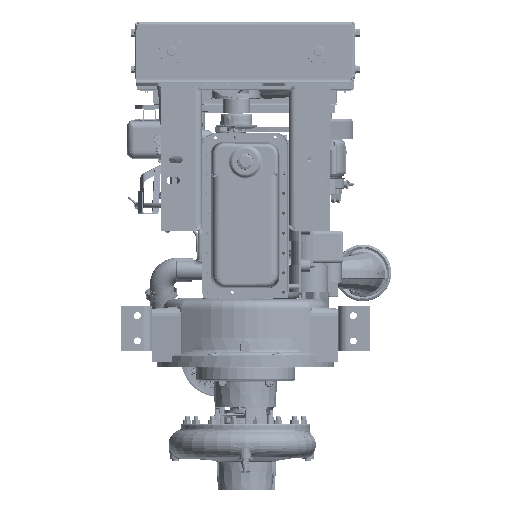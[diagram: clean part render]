
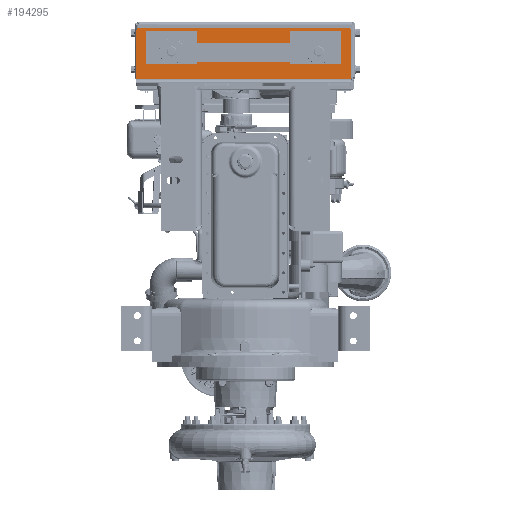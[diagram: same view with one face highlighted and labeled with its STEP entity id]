
A CAD part, front view. The second image highlights one B-rep face of the part: STEP entity #194295.
In plain terms, the highlighted planar face has unit normal (0, -1, 0).
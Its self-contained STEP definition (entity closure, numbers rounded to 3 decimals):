
#6189 = CARTESIAN_POINT ( 'NONE',  ( -8.63, -4.72, 17.34 ) ) ;
#9814 = DIRECTION ( 'NONE',  ( 0., -1., 0. ) ) ;
#17769 = CARTESIAN_POINT ( 'NONE',  ( 8.12, -4.72, 21.439 ) ) ;
#18398 = CARTESIAN_POINT ( 'NONE',  ( -6.08, -4.72, 19.26 ) ) ;
#20977 = DIRECTION ( 'NONE',  ( 0., 0., 1. ) ) ;
#22442 = VERTEX_POINT ( 'NONE', #238909 ) ;
#25820 = VERTEX_POINT ( 'NONE', #82523 ) ;
#32425 = LINE ( 'NONE', #191456, #638004 ) ;
#39853 = DIRECTION ( 'NONE',  ( 0., -1., 0. ) ) ;
#42380 = CARTESIAN_POINT ( 'NONE',  ( -8.63, -4.72, 21.189 ) ) ;
#44692 = AXIS2_PLACEMENT_3D ( 'NONE', #478148, #220895, #20977 ) ;
#45512 = DIRECTION ( 'NONE',  ( 0., 1., 0. ) ) ;
#53581 = CIRCLE ( 'NONE', #64242, 0.25 ) ;
#57033 = LINE ( 'NONE', #6189, #562418 ) ;
#60625 = CARTESIAN_POINT ( 'NONE',  ( 8.37, -4.72, 21.439 ) ) ;
#63354 = VERTEX_POINT ( 'NONE', #642230 ) ;
#64242 = AXIS2_PLACEMENT_3D ( 'NONE', #608778, #39853, #310469 ) ;
#68550 = AXIS2_PLACEMENT_3D ( 'NONE', #595265, #45512, #639409 ) ;
#72700 = CARTESIAN_POINT ( 'NONE',  ( 5.57, -4.72, 19.26 ) ) ;
#80705 = LINE ( 'NONE', #239727, #107391 ) ;
#82523 = CARTESIAN_POINT ( 'NONE',  ( -6.08, -4.72, 19.26 ) ) ;
#91457 = CARTESIAN_POINT ( 'NONE',  ( 8.37, -4.72, 17.34 ) ) ;
#96978 = LINE ( 'NONE', #303470, #213337 ) ;
#104439 = CARTESIAN_POINT ( 'NONE',  ( -5.83, -4.72, 19.885 ) ) ;
#107391 = VECTOR ( 'NONE', #439555, 39.37 ) ;
#119389 = CARTESIAN_POINT ( 'NONE',  ( -5.83, -4.72, 20.51 ) ) ;
#121699 = VECTOR ( 'NONE', #439196, 39.37 ) ;
#134883 = ORIENTED_EDGE ( 'NONE', *, *, #333572, .F. ) ;
#148898 = DIRECTION ( 'NONE',  ( -1., 0., 0. ) ) ;
#149348 = EDGE_CURVE ( 'NONE', #624567, #352486, #160184, .T. ) ;
#154183 = DIRECTION ( 'NONE',  ( 0., 0., 1. ) ) ;
#159329 = CARTESIAN_POINT ( 'NONE',  ( -5.83, -4.72, 20.51 ) ) ;
#160184 = LINE ( 'NONE', #119389, #464179 ) ;
#164060 = ORIENTED_EDGE ( 'NONE', *, *, #454474, .F. ) ;
#191102 = CARTESIAN_POINT ( 'NONE',  ( -6.08, -4.72, 19.885 ) ) ;
#191456 = CARTESIAN_POINT ( 'NONE',  ( 5.82, -4.72, 20.51 ) ) ;
#194295 = ADVANCED_FACE ( 'NONE', ( #524494, #632871, #473602 ), #476949, .T. ) ;
#200549 = CARTESIAN_POINT ( 'NONE',  ( 5.57, -4.72, 20.51 ) ) ;
#201105 = ORIENTED_EDGE ( 'NONE', *, *, #484353, .F. ) ;
#207090 = VERTEX_POINT ( 'NONE', #200549 ) ;
#213337 = VECTOR ( 'NONE', #611743, 39.37 ) ;
#213488 = VERTEX_POINT ( 'NONE', #17769 ) ;
#214280 = EDGE_CURVE ( 'NONE', #391473, #63354, #598447, .T. ) ;
#216184 = EDGE_CURVE ( 'NONE', #396026, #207090, #316901, .T. ) ;
#220895 = DIRECTION ( 'NONE',  ( 0., 1., 0. ) ) ;
#224961 = DIRECTION ( 'NONE',  ( 1., 0., 0. ) ) ;
#238909 = CARTESIAN_POINT ( 'NONE',  ( 5.82, -4.72, 20.51 ) ) ;
#239727 = CARTESIAN_POINT ( 'NONE',  ( -8.38, -4.72, 21.439 ) ) ;
#271763 = EDGE_LOOP ( 'NONE', ( #134883, #512000, #201105, #164060, #620617, #572586 ) ) ;
#276784 = CARTESIAN_POINT ( 'NONE',  ( 8.37, -4.72, 17.34 ) ) ;
#299099 = CIRCLE ( 'NONE', #461498, 0.625 ) ;
#300227 = VERTEX_POINT ( 'NONE', #42380 ) ;
#303470 = CARTESIAN_POINT ( 'NONE',  ( 5.57, -4.72, 19.26 ) ) ;
#309068 = EDGE_CURVE ( 'NONE', #25820, #502318, #482230, .T. ) ;
#310003 = CARTESIAN_POINT ( 'NONE',  ( -5.83, -4.72, 19.26 ) ) ;
#310469 = DIRECTION ( 'NONE',  ( 1., 0., 0. ) ) ;
#316901 = CIRCLE ( 'NONE', #68550, 0.625 ) ;
#321315 = ORIENTED_EDGE ( 'NONE', *, *, #309068, .F. ) ;
#321825 = AXIS2_PLACEMENT_3D ( 'NONE', #191102, #397525, #617660 ) ;
#324272 = DIRECTION ( 'NONE',  ( 0., 0., 1. ) ) ;
#325293 = EDGE_CURVE ( 'NONE', #396026, #641112, #96978, .T. ) ;
#333572 = EDGE_CURVE ( 'NONE', #441322, #213488, #80705, .T. ) ;
#336164 = EDGE_LOOP ( 'NONE', ( #628526, #572864, #372691, #579007 ) ) ;
#336490 = ORIENTED_EDGE ( 'NONE', *, *, #393907, .T. ) ;
#352486 = VERTEX_POINT ( 'NONE', #606104 ) ;
#352982 = ORIENTED_EDGE ( 'NONE', *, *, #396664, .T. ) ;
#358238 = CIRCLE ( 'NONE', #44692, 0.625 ) ;
#372691 = ORIENTED_EDGE ( 'NONE', *, *, #540074, .T. ) ;
#389982 = CARTESIAN_POINT ( 'NONE',  ( -8.63, -4.72, 17.34 ) ) ;
#391473 = VERTEX_POINT ( 'NONE', #653909 ) ;
#393907 = EDGE_CURVE ( 'NONE', #624567, #502318, #299099, .T. ) ;
#396026 = VERTEX_POINT ( 'NONE', #72700 ) ;
#396664 = EDGE_CURVE ( 'NONE', #25820, #352486, #668068, .T. ) ;
#397525 = DIRECTION ( 'NONE',  ( 0., 1., 0. ) ) ;
#399453 = LINE ( 'NONE', #91457, #648218 ) ;
#422489 = DIRECTION ( 'NONE',  ( 0., 1., 0. ) ) ;
#429682 = CIRCLE ( 'NONE', #613574, 0.25 ) ;
#433228 = EDGE_LOOP ( 'NONE', ( #352982, #587110, #336490, #321315 ) ) ;
#439196 = DIRECTION ( 'NONE',  ( 0., 0., 1. ) ) ;
#439555 = DIRECTION ( 'NONE',  ( 1., 0., 0. ) ) ;
#441322 = VERTEX_POINT ( 'NONE', #471368 ) ;
#445435 = DIRECTION ( 'NONE',  ( -1., 0., 0. ) ) ;
#454474 = EDGE_CURVE ( 'NONE', #391473, #547745, #399453, .T. ) ;
#454886 = EDGE_CURVE ( 'NONE', #63354, #213488, #53581, .T. ) ;
#460243 = EDGE_CURVE ( 'NONE', #22442, #207090, #32425, .T. ) ;
#461498 = AXIS2_PLACEMENT_3D ( 'NONE', #104439, #422489, #622581 ) ;
#464179 = VECTOR ( 'NONE', #468276, 39.37 ) ;
#468276 = DIRECTION ( 'NONE',  ( -1., 0., 0. ) ) ;
#469024 = CARTESIAN_POINT ( 'NONE',  ( 5.82, -4.72, 19.26 ) ) ;
#471368 = CARTESIAN_POINT ( 'NONE',  ( -8.38, -4.72, 21.439 ) ) ;
#473602 = FACE_OUTER_BOUND ( 'NONE', #271763, .T. ) ;
#476949 = PLANE ( 'NONE',  #545527 ) ;
#478148 = CARTESIAN_POINT ( 'NONE',  ( 5.82, -4.72, 19.885 ) ) ;
#482230 = LINE ( 'NONE', #18398, #608479 ) ;
#484353 = EDGE_CURVE ( 'NONE', #547745, #300227, #57033, .T. ) ;
#502318 = VERTEX_POINT ( 'NONE', #310003 ) ;
#512000 = ORIENTED_EDGE ( 'NONE', *, *, #514096, .T. ) ;
#514096 = EDGE_CURVE ( 'NONE', #441322, #300227, #429682, .T. ) ;
#524494 = FACE_BOUND ( 'NONE', #336164, .T. ) ;
#526451 = DIRECTION ( 'NONE',  ( 0., -1., 0. ) ) ;
#540074 = EDGE_CURVE ( 'NONE', #22442, #641112, #358238, .T. ) ;
#545527 = AXIS2_PLACEMENT_3D ( 'NONE', #60625, #9814, #626193 ) ;
#547745 = VERTEX_POINT ( 'NONE', #389982 ) ;
#562418 = VECTOR ( 'NONE', #324272, 39.37 ) ;
#572586 = ORIENTED_EDGE ( 'NONE', *, *, #454886, .T. ) ;
#572864 = ORIENTED_EDGE ( 'NONE', *, *, #460243, .F. ) ;
#579007 = ORIENTED_EDGE ( 'NONE', *, *, #325293, .F. ) ;
#580647 = CARTESIAN_POINT ( 'NONE',  ( -8.38, -4.72, 21.189 ) ) ;
#587110 = ORIENTED_EDGE ( 'NONE', *, *, #149348, .F. ) ;
#595265 = CARTESIAN_POINT ( 'NONE',  ( 5.57, -4.72, 19.885 ) ) ;
#598447 = LINE ( 'NONE', #276784, #121699 ) ;
#606104 = CARTESIAN_POINT ( 'NONE',  ( -6.08, -4.72, 20.51 ) ) ;
#608479 = VECTOR ( 'NONE', #224961, 39.37 ) ;
#608778 = CARTESIAN_POINT ( 'NONE',  ( 8.12, -4.72, 21.189 ) ) ;
#611743 = DIRECTION ( 'NONE',  ( 1., 0., 0. ) ) ;
#613574 = AXIS2_PLACEMENT_3D ( 'NONE', #580647, #526451, #154183 ) ;
#617660 = DIRECTION ( 'NONE',  ( 0., 0., -1. ) ) ;
#620617 = ORIENTED_EDGE ( 'NONE', *, *, #214280, .T. ) ;
#622581 = DIRECTION ( 'NONE',  ( 0., 0., 1. ) ) ;
#624567 = VERTEX_POINT ( 'NONE', #159329 ) ;
#626193 = DIRECTION ( 'NONE',  ( 0., 0., -1. ) ) ;
#628526 = ORIENTED_EDGE ( 'NONE', *, *, #216184, .T. ) ;
#632871 = FACE_BOUND ( 'NONE', #433228, .T. ) ;
#638004 = VECTOR ( 'NONE', #445435, 39.37 ) ;
#639409 = DIRECTION ( 'NONE',  ( 0., 0., -1. ) ) ;
#641112 = VERTEX_POINT ( 'NONE', #469024 ) ;
#642230 = CARTESIAN_POINT ( 'NONE',  ( 8.37, -4.72, 21.189 ) ) ;
#648218 = VECTOR ( 'NONE', #148898, 39.37 ) ;
#653909 = CARTESIAN_POINT ( 'NONE',  ( 8.37, -4.72, 17.34 ) ) ;
#668068 = CIRCLE ( 'NONE', #321825, 0.625 ) ;
